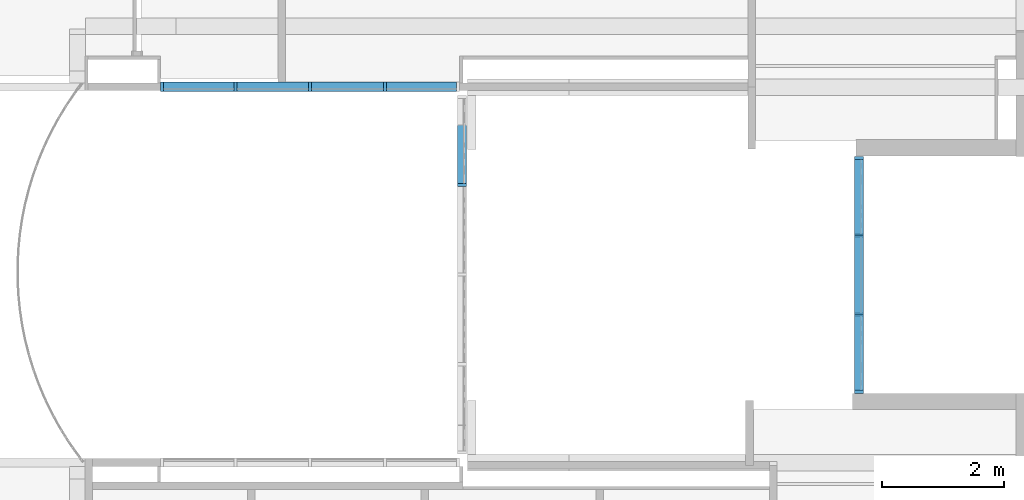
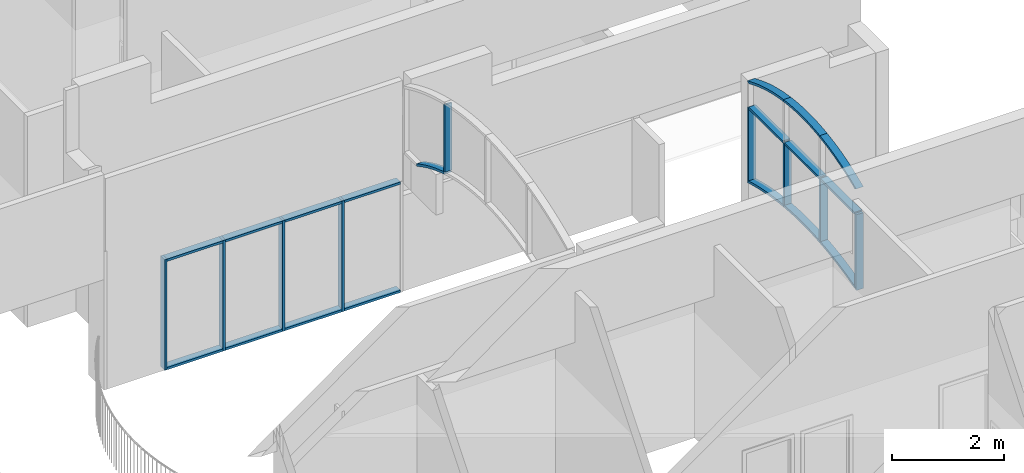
# One storey, part 3 of 47: 27 members, 3 elements without a shape of their own.
"""IFC2X3 building model written with IfcOpenShell, lengths in metres."""

from ifc_helpers import new_model, entity, si_unit, converted_unit, frame, frame_2d, origin, origin_2d_with_axis, place, context, project, spatial, polyline, circle_curve, parameter, trimmed, segment, composite_curve, rectangle, outline, extrude, source, transform, mapped, material, type_object, type_shapes, element, aggregate, save


model = new_model("IFC2X3")

# Units and contexts
model_context = context("Model", 3, precision=1e-09, world=origin())
plan_context = context("Plan", 3, precision=1e-09, world=origin())
ifc_project = project(units=[si_unit("LENGTHUNIT", "METRE"), si_unit("AREAUNIT", "SQUARE_METRE"), si_unit("VOLUMEUNIT", "CUBIC_METRE"), converted_unit("PLANEANGLEUNIT", "DEGREE", entity("IfcRatioMeasure", 0.01745329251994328), si_unit("PLANEANGLEUNIT", "RADIAN"), dimensions=[0, 0, 0, 0, 0, 0, 0]), si_unit("TIMEUNIT", "SECOND")], contexts=[model_context, plan_context])

# Site, building, storey
site_placement = place(None, origin())
site = spatial("IfcSite", under=ifc_project, at=site_placement, Name="Default", CompositionType="ELEMENT")
building_placement = place(site_placement, origin())
building = spatial("IfcBuilding", under=site, at=building_placement, CompositionType="ELEMENT")
storey_placement = place(building_placement, frame((0.0, 0.0, 4.570000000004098)))
storey = spatial("IfcBuildingStorey", under=building, at=storey_placement, Name="Second Floor", CompositionType="ELEMENT", Elevation=4.570000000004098)

# Curtain wall, members
curtain_wall_1_placement = place(storey_placement, origin())
curtain_wall_1 = element("IfcCurtainWall", 1, at=curtain_wall_1_placement, inside=storey, Name="Curtain Wall:Storefront", ObjectType="Curtain Wall:Storefront")
ifc_material = material(Name="Metal - Aluminium")
member_type_1 = type_object("IfcMemberType", Name="50 x 150mm", PredefinedType="MULLION")
shared_shape_1 = source(origin(), model_context, "Body", "SweptSolid", [
    extrude(rectangle(XDim=0.05, YDim=0.15, at=origin_2d_with_axis()), frame((-0.025, 0.0, -2.399999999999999), z_axis=(0.0, 0.0, 1.0), x_axis=(-1.0, 0.0, 0.0)), (0.0, 0.0, 1.0), 2.399999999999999),
])
type_shapes(member_type_1, [shared_shape_1])
member_1_placement = place(storey_placement, frame((-13.8725000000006, 34.77180159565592, 0.0), z_axis=(0.0, 0.0, -1.0), x_axis=(-1.0, 0.0, 0.0)))
member_1 = element("IfcMember", 2, at=member_1_placement, type_object=member_type_1, material=ifc_material, Name="Rectangular Mullion:50 x 150mm:50 x 150mm", ObjectType="50 x 150mm", context=model_context, shape_type="MappedRepresentation", body=[
    mapped(shared_shape_1, transform((0.0, 0.0, 0.0), scale=1.0)),
])
member_type_2 = type_object("IfcMemberType", Name="50 x 150mm", PredefinedType="MULLION")
shared_shape_2 = source(origin(), model_context, "Body", "SweptSolid", [
    extrude(rectangle(XDim=0.05, YDim=0.15, at=origin_2d_with_axis()), frame((0.0, 0.0, -2.399999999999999), z_axis=(0.0, 0.0, 1.0), x_axis=(-1.0, 0.0, 0.0)), (0.0, 0.0, 1.0), 2.399999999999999),
])
type_shapes(member_type_2, [shared_shape_2])
member_2_placement = place(storey_placement, frame((-10.20441995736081, 34.7718015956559, 0.0), z_axis=(0.0, 0.0, -1.0), x_axis=(-1.0, 0.0, 0.0)))
member_2 = element("IfcMember", 3, at=member_2_placement, type_object=member_type_2, material=ifc_material, Name="Rectangular Mullion:50 x 150mm:50 x 150mm", ObjectType="50 x 150mm", context=model_context, shape_type="MappedRepresentation", body=[
    mapped(shared_shape_2, transform((0.0, 0.0, 0.0), scale=1.0)),
])
member_3_placement = place(storey_placement, frame((-11.4271133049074, 34.77180159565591, 0.0), z_axis=(0.0, 0.0, -1.0), x_axis=(-1.0, 0.0, 0.0)))
member_3 = element("IfcMember", 4, at=member_3_placement, type_object=member_type_2, material=ifc_material, Name="Rectangular Mullion:50 x 150mm:50 x 150mm", ObjectType="50 x 150mm", context=model_context, shape_type="MappedRepresentation", body=[
    mapped(shared_shape_2, transform((0.0, 0.0, 0.0), scale=1.0)),
])
member_4_placement = place(storey_placement, frame((-12.649806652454, 34.77180159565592, 0.0), z_axis=(0.0, 0.0, -1.0), x_axis=(-1.0, 0.0, 0.0)))
member_4 = element("IfcMember", 5, at=member_4_placement, type_object=member_type_2, material=ifc_material, Name="Rectangular Mullion:50 x 150mm:50 x 150mm", ObjectType="50 x 150mm", context=model_context, shape_type="MappedRepresentation", body=[
    mapped(shared_shape_2, transform((0.0, 0.0, 0.0), scale=1.0)),
])
member_type_3 = type_object("IfcMemberType", Name="50 x 150mm", PredefinedType="MULLION")
shared_shape_3 = source(origin(), model_context, "Body", "SweptSolid", [
    extrude(rectangle(XDim=0.05, YDim=0.15, at=origin_2d_with_axis()), frame((-0.025, 0.0, -1.147693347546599), z_axis=(0.0, 0.0, 1.0), x_axis=(-1.0, 0.0, 0.0)), (0.0, 0.0, 1.0), 1.147693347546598),
])
type_shapes(member_type_3, [shared_shape_3])
member_5_placement = place(storey_placement, frame((-13.8225000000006, 34.77180159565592, 2.399999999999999), z_axis=(-1.0, 0.0, 0.0), x_axis=(0.0, 0.0, 1.0)))
member_5 = element("IfcMember", 6, at=member_5_placement, type_object=member_type_3, material=ifc_material, Name="Rectangular Mullion:50 x 150mm:50 x 150mm", ObjectType="50 x 150mm", context=model_context, shape_type="MappedRepresentation", body=[
    mapped(shared_shape_3, transform((0.0, 0.0, 0.0), scale=1.0)),
])
member_6_placement = place(storey_placement, frame((-10.17941995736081, 34.7718015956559, 2.399999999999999), z_axis=(-1.0, 0.0, 0.0), x_axis=(0.0, 0.0, 1.0)))
member_6 = element("IfcMember", 7, at=member_6_placement, type_object=member_type_3, material=ifc_material, Name="Rectangular Mullion:50 x 150mm:50 x 150mm", ObjectType="50 x 150mm", context=model_context, shape_type="MappedRepresentation", body=[
    mapped(shared_shape_3, transform((0.0, 0.0, 0.0), scale=1.0)),
])
member_type_4 = type_object("IfcMemberType", Name="50 x 150mm", PredefinedType="MULLION")
shared_shape_4 = source(origin(), model_context, "Body", "SweptSolid", [
    extrude(rectangle(XDim=0.05, YDim=0.15, at=origin_2d_with_axis()), frame((-0.025, 0.0, -1.172693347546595), z_axis=(0.0, 0.0, 1.0), x_axis=(-1.0, 0.0, 0.0)), (0.0, 0.0, 1.0), 1.172693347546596),
])
type_shapes(member_type_4, [shared_shape_4])
member_7_placement = place(storey_placement, frame((-11.4021133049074, 34.77180159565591, 2.399999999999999), z_axis=(-1.0, 0.0, 0.0), x_axis=(0.0, 0.0, 1.0)))
member_7 = element("IfcMember", 8, at=member_7_placement, type_object=member_type_4, material=ifc_material, Name="Rectangular Mullion:50 x 150mm:50 x 150mm", ObjectType="50 x 150mm", context=model_context, shape_type="MappedRepresentation", body=[
    mapped(shared_shape_4, transform((0.0, 0.0, 0.0), scale=1.0)),
])
member_8_placement = place(storey_placement, frame((-12.624806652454, 34.77180159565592, 2.399999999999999), z_axis=(-1.0, 0.0, 0.0), x_axis=(0.0, 0.0, 1.0)))
member_8 = element("IfcMember", 9, at=member_8_placement, type_object=member_type_4, material=ifc_material, Name="Rectangular Mullion:50 x 150mm:50 x 150mm", ObjectType="50 x 150mm", context=model_context, shape_type="MappedRepresentation", body=[
    mapped(shared_shape_4, transform((0.0, 0.0, 0.0), scale=1.0)),
])
member_type_5 = type_object("IfcMemberType", Name="50 x 150mm", PredefinedType="MULLION")
shared_shape_5 = source(origin(), model_context, "Body", "SweptSolid", [
    extrude(rectangle(XDim=0.05, YDim=0.15, at=origin_2d_with_axis()), frame((-0.025, 0.0, -1.147693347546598), z_axis=(0.0, 0.0, 1.0), x_axis=(-1.0, 0.0, 0.0)), (0.0, 0.0, 1.0), 1.147693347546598),
])
type_shapes(member_type_5, [shared_shape_5])
member_9_placement = place(storey_placement, frame((-9.031726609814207, 34.7718015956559, 0.0), z_axis=(1.0, 0.0, 0.0), x_axis=(0.0, 0.0, -1.0)))
member_9 = element("IfcMember", 10, at=member_9_placement, type_object=member_type_5, material=ifc_material, Name="Rectangular Mullion:50 x 150mm:50 x 150mm", ObjectType="50 x 150mm", context=model_context, shape_type="MappedRepresentation", body=[
    mapped(shared_shape_5, transform((0.0, 0.0, 0.0), scale=1.0)),
])
member_10_placement = place(storey_placement, frame((-12.674806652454, 34.77180159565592, 0.0), z_axis=(1.0, 0.0, 0.0), x_axis=(0.0, 0.0, -1.0)))
member_10 = element("IfcMember", 11, at=member_10_placement, type_object=member_type_5, material=ifc_material, Name="Rectangular Mullion:50 x 150mm:50 x 150mm", ObjectType="50 x 150mm", context=model_context, shape_type="MappedRepresentation", body=[
    mapped(shared_shape_5, transform((0.0, 0.0, 0.0), scale=1.0)),
])
member_type_6 = type_object("IfcMemberType", Name="50 x 150mm", PredefinedType="MULLION")
shared_shape_6 = source(origin(), model_context, "Body", "SweptSolid", [
    extrude(rectangle(XDim=0.05, YDim=0.15, at=origin_2d_with_axis()), frame((-0.025, 0.0, -1.172693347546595), z_axis=(0.0, 0.0, 1.0), x_axis=(-1.0, 0.0, 0.0)), (0.0, 0.0, 1.0), 1.172693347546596),
])
type_shapes(member_type_6, [shared_shape_6])
member_11_placement = place(storey_placement, frame((-10.22941995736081, 34.7718015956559, 0.0), z_axis=(1.0, 0.0, 0.0), x_axis=(0.0, 0.0, -1.0)))
member_11 = element("IfcMember", 12, at=member_11_placement, type_object=member_type_6, material=ifc_material, Name="Rectangular Mullion:50 x 150mm:50 x 150mm", ObjectType="50 x 150mm", context=model_context, shape_type="MappedRepresentation", body=[
    mapped(shared_shape_6, transform((0.0, 0.0, 0.0), scale=1.0)),
])
member_12_placement = place(storey_placement, frame((-11.4521133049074, 34.77180159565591, 0.0), z_axis=(1.0, 0.0, 0.0), x_axis=(0.0, 0.0, -1.0)))
member_12 = element("IfcMember", 13, at=member_12_placement, type_object=member_type_6, material=ifc_material, Name="Rectangular Mullion:50 x 150mm:50 x 150mm", ObjectType="50 x 150mm", context=model_context, shape_type="MappedRepresentation", body=[
    mapped(shared_shape_6, transform((0.0, 0.0, 0.0), scale=1.0)),
])
aggregate(curtain_wall_1, [member_5, member_6, member_7, member_8, member_9, member_11, member_12, member_10, member_1, member_2, member_3, member_4])

curtain_wall_2_placement = place(storey_placement, origin())
curtain_wall_2 = element("IfcCurtainWall", 14, at=curtain_wall_2_placement, inside=storey, Name="Curtain Wall:Storefront", ObjectType="Curtain Wall:Storefront")
member_type_7 = type_object("IfcMemberType", Name="50 x 150mm", PredefinedType="MULLION")
shared_shape_7 = source(origin(), model_context, "Body", "SweptSolid", [
    extrude(outline(polyline([(-0.8389368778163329, -0.025), (0.8054973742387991, -0.025), (0.8054973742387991, 0.025), (-0.7720578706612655, 0.025), (-0.8389368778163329, -0.025)])), frame((-0.025, -0.07499999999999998, -0.8389368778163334), z_axis=(0.0, 1.0, 0.0), x_axis=(0.0, 0.0, -1.0)), (0.0, 0.0, 1.0), 0.15),
])
type_shapes(member_type_7, [shared_shape_7])
member_13_placement = place(storey_placement, frame((-2.45449999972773, 29.75999999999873, 0.7555657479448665), z_axis=(0.0, 0.0, -1.0), x_axis=(0.0, -1.0, 0.0)))
member_13 = element("IfcMember", 15, at=member_13_placement, type_object=member_type_7, material=ifc_material, Name="Rectangular Mullion:50 x 150mm:50 x 150mm", ObjectType="50 x 150mm", context=model_context, shape_type="MappedRepresentation", body=[
    mapped(shared_shape_7, transform((0.0, 0.0, 0.0), scale=1.0)),
])
member_type_8 = type_object("IfcMemberType", Name="50 x 150mm", PredefinedType="MULLION")
shared_shape_8 = source(origin(), model_context, "Body", "SweptSolid", [
    extrude(outline(composite_curve([segment(polyline([(-0.4461808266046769, -0.02409578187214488), (0.8967671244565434, -0.02409578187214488)]), True, "CONTINUOUS"), segment(polyline([(0.8967671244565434, -0.02409578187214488), (0.8967671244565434, 0.02590421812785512)]), True, "CONTINUOUS"), segment(polyline([(0.8967671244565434, 0.02590421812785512), (-0.4508827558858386, 0.02590421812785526)]), True, "CONTINUOUS"), segment(trimmed(circle_curve(frame_2d((-7.30741844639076, -0.6440957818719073), x_axis=(0.9591411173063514, 0.2829281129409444)), 6.889193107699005), [parameter(348.9765295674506)], [parameter(349.1460104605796)], True, "PARAMETER"), False, "CONTINUOUS"), segment(polyline([(-0.4489308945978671, 0.005619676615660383), (-0.4475397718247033, -0.009236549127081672)]), True, "CONTINUOUS"), segment(polyline([(-0.4475397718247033, -0.009236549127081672), (-0.4461808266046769, -0.02409578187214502)]), True, "CONTINUOUS")], self_intersect=False)), frame((0.0009042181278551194, -0.07499999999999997, -0.4987080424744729), z_axis=(0.0, 1.0, 0.0), x_axis=(0.0, 0.0, -1.0)), (0.0, 0.0, 1.0), 0.15),
])
type_shapes(member_type_8, [shared_shape_8])
member_14_placement = place(storey_placement, frame((-2.454499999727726, 32.33999999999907, 1.004524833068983), z_axis=(0.0, 0.0, -1.0), x_axis=(0.0, -1.0, 0.0)))
member_14 = element("IfcMember", 16, at=member_14_placement, type_object=member_type_8, material=ifc_material, Name="Rectangular Mullion:50 x 150mm:50 x 150mm", ObjectType="50 x 150mm", context=model_context, shape_type="MappedRepresentation", body=[
    mapped(shared_shape_8, transform((0.0, 0.0, 0.0), scale=1.0)),
])
member_type_9 = type_object("IfcMemberType", Name="50 x 150mm", PredefinedType="MULLION")
shared_shape_9 = source(origin(), model_context, "Body", "SweptSolid", [
    extrude(outline(composite_curve([segment(polyline([(-0.4504894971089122, -0.02173768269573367), (0.8971603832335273, -0.02173768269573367)]), True, "CONTINUOUS"), segment(polyline([(0.8971603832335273, -0.02173768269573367), (0.8971603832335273, 0.02826231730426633)]), True, "CONTINUOUS"), segment(polyline([(0.8971603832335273, 0.02826231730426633), (-0.4457875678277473, 0.02826231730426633)]), True, "CONTINUOUS"), segment(trimmed(circle_curve(frame_2d((-7.307025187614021, 0.6482623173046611), x_axis=(0.9955429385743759, 0.09430937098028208)), 6.889193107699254), [parameter(349.176857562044)], [parameter(349.4250503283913)], True, "PARAMETER"), False, "CONTINUOUS"), segment(polyline([(-0.4485376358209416, -0.001453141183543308), (-0.4495060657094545, -0.01159612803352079)]), True, "CONTINUOUS"), segment(polyline([(-0.4495060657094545, -0.01159612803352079), (-0.4504894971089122, -0.02173768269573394)]), True, "CONTINUOUS")], self_intersect=False)), frame((0.003262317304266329, -0.07499999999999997, -0.4983147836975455), z_axis=(0.0, 1.0, 0.0), x_axis=(0.0, 0.0, -1.0)), (0.0, 0.0, 1.0), 0.15),
])
type_shapes(member_type_9, [shared_shape_9])
member_15_placement = place(storey_placement, frame((-2.454499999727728, 31.04999999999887, 1.004524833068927), z_axis=(0.0, 0.0, -1.0), x_axis=(0.0, -1.0, 0.0)))
member_15 = element("IfcMember", 17, at=member_15_placement, type_object=member_type_9, material=ifc_material, Name="Rectangular Mullion:50 x 150mm:50 x 150mm", ObjectType="50 x 150mm", context=model_context, shape_type="MappedRepresentation", body=[
    mapped(shared_shape_9, transform((0.0, 0.0, 0.0), scale=1.0)),
])
member_type_10 = type_object("IfcMemberType", Name="50 x 150mm", PredefinedType="MULLION")
shared_shape_10 = source(origin(), model_context, "Body", "SweptSolid", [
    extrude(outline(composite_curve([segment(polyline([(-0.1191200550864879, -0.6535333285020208), (-0.06912005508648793, -0.6535333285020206)]), True, "CONTINUOUS"), segment(trimmed(circle_curve(frame_2d((4.53857932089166, -0.6535333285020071), x_axis=(-0.9583864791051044, 0.2854739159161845)), 4.607699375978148), [parameter(0.4004577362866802)], [parameter(16.58717889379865)], True, "PARAMETER"), False, "CONTINUOUS"), segment(polyline([(0.1135368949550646, 0.6309483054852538), (0.07470321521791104, 0.6761183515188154)]), True, "CONTINUOUS"), segment(trimmed(circle_curve(frame_2d((4.53857932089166, -0.6535333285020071), x_axis=(-0.9583864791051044, 0.2854739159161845)), 4.657699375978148), [parameter(3.562221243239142e-13)], [parameter(16.58717889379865)], True, "PARAMETER"), True, "CONTINUOUS")], self_intersect=False)), frame((-0.121419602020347, -0.07499999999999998, -0.6693085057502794), z_axis=(0.0, 1.0, 0.0), x_axis=(-0.9583864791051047, 0.0, 0.2854739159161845)), (0.0, 0.0, 1.0), 0.15),
])
type_shapes(member_type_10, [shared_shape_10])
member_16_placement = place(storey_placement, frame((-2.45449999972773, 29.75999999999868, 2.964012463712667), z_axis=(0.0, -0.9096200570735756, -0.4154411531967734), x_axis=(0.0, -0.4154411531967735, 0.9096200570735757)))
member_16 = element("IfcMember", 18, at=member_16_placement, type_object=member_type_10, material=ifc_material, Name="Rectangular Mullion:50 x 150mm:50 x 150mm", ObjectType="50 x 150mm", context=model_context, shape_type="MappedRepresentation", body=[
    mapped(shared_shape_10, transform((0.0, 0.0, 0.0), scale=1.0)),
])
member_type_11 = type_object("IfcMemberType", Name="50 x 150mm", PredefinedType="MULLION")
shared_shape_11 = source(origin(), model_context, "Body", "SweptSolid", [
    extrude(outline(composite_curve([segment(trimmed(circle_curve(frame_2d((3.454349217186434, 3.015506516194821), x_axis=(-0.65191805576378, -0.758289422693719)), 4.657699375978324), [parameter(343.412821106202)], [parameter(359.9999999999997)], True, "PARAMETER"), True, "CONTINUOUS"), segment(polyline([(0.4179108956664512, -0.516377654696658), (0.4505067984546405, -0.4784631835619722)]), True, "CONTINUOUS"), segment(trimmed(circle_curve(frame_2d((3.454349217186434, 3.015506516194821), x_axis=(-0.65191805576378, -0.758289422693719)), 4.607699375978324), [parameter(343.8132788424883)], [parameter(359.9999999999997)], True, "PARAMETER"), False, "CONTINUOUS"), segment(polyline([(-0.4044246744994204, 0.4974204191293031), (-0.463993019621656, 0.4974204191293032)]), True, "CONTINUOUS")], self_intersect=False)), frame((-0.1191200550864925, -0.07499999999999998, -0.6535333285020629), z_axis=(0.0, -1.0, 0.0), x_axis=(-0.6519180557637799, 0.0, 0.7582894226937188)), (0.0, 0.0, -1.0), 0.1499999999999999),
])
type_shapes(member_type_11, [shared_shape_11])
member_17_placement = place(storey_placement, frame((-2.454499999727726, 32.33999999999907, 3.340098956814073), z_axis=(0.0, -0.9903651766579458, 0.1384803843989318), x_axis=(0.0, 0.1384803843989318, 0.9903651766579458)))
member_17 = element("IfcMember", 19, at=member_17_placement, type_object=member_type_11, material=ifc_material, Name="Rectangular Mullion:50 x 150mm:50 x 150mm", ObjectType="50 x 150mm", context=model_context, shape_type="MappedRepresentation", body=[
    mapped(shared_shape_11, transform((0.0, 0.0, 0.0), scale=1.0)),
])
member_type_12 = type_object("IfcMemberType", Name="50 x 150mm", PredefinedType="MULLION")
shared_shape_12 = source(origin(), model_context, "Body", "SweptSolid", [
    extrude(outline(composite_curve([segment(polyline([(-0.1138404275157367, -0.6353568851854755), (-0.06384042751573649, -0.6353568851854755)]), True, "CONTINUOUS"), segment(trimmed(circle_curve(frame_2d((4.543858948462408, -0.6353568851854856), x_axis=(-0.9616463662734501, 0.2742923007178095)), 4.607699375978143), [parameter(3.562221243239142e-13)], [parameter(15.91984435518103)], True, "PARAMETER"), False, "CONTINUOUS"), segment(polyline([(0.1128815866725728, 0.6284995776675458), (0.06479926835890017, 0.642214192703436)]), True, "CONTINUOUS"), segment(trimmed(circle_curve(frame_2d((4.543858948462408, -0.6353568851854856), x_axis=(-0.9616463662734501, 0.2742923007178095)), 4.657699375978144), [parameter(3.562221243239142e-13)], [parameter(15.91984435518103)], True, "PARAMETER"), True, "CONTINUOUS")], self_intersect=False)), frame((-0.1138404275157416, -0.07499999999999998, -0.6353568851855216), z_axis=(0.0, 1.0, 0.0), x_axis=(-0.9616463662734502, 0.0, 0.2742923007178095)), (0.0, 0.0, 1.0), 0.15),
])
type_shapes(member_type_12, [shared_shape_12])
member_18_placement = place(storey_placement, frame((-2.454499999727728, 31.04999999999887, 3.340098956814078), z_axis=(0.0, -0.9903651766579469, -0.1384803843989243), x_axis=(0.0, -0.1384803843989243, 0.9903651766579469)))
member_18 = element("IfcMember", 20, at=member_18_placement, type_object=member_type_12, material=ifc_material, Name="Rectangular Mullion:50 x 150mm:50 x 150mm", ObjectType="50 x 150mm", context=model_context, shape_type="MappedRepresentation", body=[
    mapped(shared_shape_12, transform((0.0, 0.0, 0.0), scale=1.0)),
])
member_type_13 = type_object("IfcMemberType", Name="50 x 150mm", PredefinedType="MULLION")
shared_shape_13 = source(origin(), model_context, "Body", "SweptSolid", [
    extrude(outline(composite_curve([segment(polyline([(0.03522795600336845, -0.6399335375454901), (0.08522795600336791, -0.6399335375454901)]), True, "CONTINUOUS"), segment(trimmed(circle_curve(frame_2d((-6.803965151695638, -0.6399335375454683), x_axis=(0.9815489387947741, 0.1912110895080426)), 6.889193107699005), [parameter(348.9765295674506)], [parameter(359.4473398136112)], True, "PARAMETER"), True, "CONTINUOUS"), segment(polyline([(-0.02949349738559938, 0.612071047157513), (-0.0909624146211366, 0.6677960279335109)]), True, "CONTINUOUS"), segment(trimmed(circle_curve(frame_2d((-6.803965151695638, -0.6399335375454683), x_axis=(0.9815489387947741, 0.1912110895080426)), 6.839193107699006), [parameter(348.9765295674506)], [parameter(359.9999999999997)], True, "PARAMETER"), False, "CONTINUOUS")], self_intersect=False)), frame((0.03840594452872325, -0.07499999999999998, -0.6728675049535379), z_axis=(0.0, 1.0, 0.0), x_axis=(-0.9815489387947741, 0.0, -0.1912110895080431)), (0.0, 0.0, 1.0), 0.1499999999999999),
])
type_shapes(member_type_13, [shared_shape_13])
member_19_placement = place(storey_placement, frame((-2.454499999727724, 33.62999999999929, 0.7555657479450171), z_axis=(0.0, 0.9591411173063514, -0.2829281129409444), x_axis=(0.0, -0.2829281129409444, -0.9591411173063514)))
member_19 = element("IfcMember", 21, at=member_19_placement, type_object=member_type_13, material=ifc_material, Name="Rectangular Mullion:50 x 150mm:50 x 150mm", ObjectType="50 x 150mm", context=model_context, shape_type="MappedRepresentation", body=[
    mapped(shared_shape_13, transform((0.0, 0.0, 0.0), scale=1.0)),
])
member_type_14 = type_object("IfcMemberType", Name="50 x 150mm", PredefinedType="MULLION")
shared_shape_14 = source(origin(), model_context, "Body", "SweptSolid", [
    extrude(outline(composite_curve([segment(polyline([(0.03605190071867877, -0.6444724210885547), (0.08605190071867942, -0.6444724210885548)]), True, "CONTINUOUS"), segment(trimmed(circle_curve(frame_2d((-6.803141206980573, -0.6444724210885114), x_axis=(0.9822114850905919, 0.187778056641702)), 6.889193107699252), [parameter(349.176857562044)], [parameter(359.9999999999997)], True, "PARAMETER"), True, "CONTINUOUS"), segment(polyline([(-0.03649661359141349, 0.6491668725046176), (-0.08560718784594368, 0.6397779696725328)]), True, "CONTINUOUS"), segment(trimmed(circle_curve(frame_2d((-6.803141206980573, -0.6444724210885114), x_axis=(0.9822114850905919, 0.187778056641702)), 6.839193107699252), [parameter(349.176857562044)], [parameter(359.9999999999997)], True, "PARAMETER"), False, "CONTINUOUS")], self_intersect=False)), frame((0.03605190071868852, -0.07499999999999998, -0.6444724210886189), z_axis=(0.0, 1.0, 0.0), x_axis=(-0.9822114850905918, 0.0, -0.1877780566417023)), (0.0, 0.0, 1.0), 0.15),
])
type_shapes(member_type_14, [shared_shape_14])
member_20_placement = place(storey_placement, frame((-2.454499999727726, 32.33999999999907, 1.004524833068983), z_axis=(0.0, 0.9955429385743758, -0.09430937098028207), x_axis=(0.0, -0.09430937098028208, -0.9955429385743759)))
member_20 = element("IfcMember", 22, at=member_20_placement, type_object=member_type_14, material=ifc_material, Name="Rectangular Mullion:50 x 150mm:50 x 150mm", ObjectType="50 x 150mm", context=model_context, shape_type="MappedRepresentation", body=[
    mapped(shared_shape_14, transform((0.0, 0.0, 0.0), scale=1.0)),
])
member_type_15 = type_object("IfcMemberType", Name="50 x 150mm", PredefinedType="MULLION")
shared_shape_15 = source(origin(), model_context, "Body", "SweptSolid", [
    extrude(outline(composite_curve([segment(polyline([(-0.5159126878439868, -0.4336586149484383), (-0.4329446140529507, -0.4336586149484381)]), True, "CONTINUOUS"), segment(trimmed(circle_curve(frame_2d((-4.611075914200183, 5.043950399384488), x_axis=(0.740874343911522, -0.6716436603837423)), 6.889193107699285), [parameter(349.5291897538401)], [parameter(359.9999999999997)], True, "PARAMETER"), True, "CONTINUOUS"), segment(polyline([(0.4929505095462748, 0.4168675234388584), (0.4559067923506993, 0.4504497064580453)]), True, "CONTINUOUS"), segment(trimmed(circle_curve(frame_2d((-4.611075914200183, 5.043950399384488), x_axis=(0.740874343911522, -0.6716436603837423)), 6.839193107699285), [parameter(348.9765295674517)], [parameter(359.9999999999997)], True, "PARAMETER"), False, "CONTINUOUS")], self_intersect=False)), frame((0.03522795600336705, -0.07499999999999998, -0.6399335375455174), z_axis=(0.0, 1.0, 0.0), x_axis=(-0.7408743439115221, 0.0, 0.6716436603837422)), (0.0, 0.0, 1.0), 0.15),
])
type_shapes(member_type_15, [shared_shape_15])
member_21_placement = place(storey_placement, frame((-2.454499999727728, 31.04999999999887, 1.004524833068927), z_axis=(0.0, 0.9955429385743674, 0.09430937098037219), x_axis=(0.0, 0.09430937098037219, -0.9955429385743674)))
member_21 = element("IfcMember", 23, at=member_21_placement, type_object=member_type_15, material=ifc_material, Name="Rectangular Mullion:50 x 150mm:50 x 150mm", ObjectType="50 x 150mm", context=model_context, shape_type="MappedRepresentation", body=[
    mapped(shared_shape_15, transform((0.0, 0.0, 0.0), scale=1.0)),
])
member_type_16 = type_object("IfcMemberType", Name="50 x 150mm", PredefinedType="MULLION")
shared_shape_16 = source(origin(), model_context, "Body", "SweptSolid", [
    extrude(outline(polyline([(-0.8054973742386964, -0.025), (0.838936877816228, -0.025), (0.7720578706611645, 0.025), (-0.8054973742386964, 0.025), (-0.8054973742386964, -0.025)])), frame((-0.025, -0.07499999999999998, -0.8054973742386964), z_axis=(0.0, 1.0, 0.0), x_axis=(0.0, 0.0, -1.0)), (0.0, 0.0, 1.0), 0.15),
])
type_shapes(member_type_16, [shared_shape_16])
member_22_placement = place(storey_placement, frame((-2.454499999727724, 33.62999999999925, 2.399999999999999), z_axis=(0.0, 0.0, 1.0), x_axis=(0.0, 1.0, 0.0)))
member_22 = element("IfcMember", 24, at=member_22_placement, type_object=member_type_16, material=ifc_material, Name="Rectangular Mullion:50 x 150mm:50 x 150mm", ObjectType="50 x 150mm", context=model_context, shape_type="MappedRepresentation", body=[
    mapped(shared_shape_16, transform((0.0, 0.0, 0.0), scale=1.0)),
])
member_type_17 = type_object("IfcMemberType", Name="50 x 150mm", PredefinedType="MULLION")
shared_shape_17 = source(origin(), model_context, "Body", "SweptSolid", [
    extrude(rectangle(XDim=0.05, YDim=0.15, at=origin_2d_with_axis()), frame((0.0, 0.0, -1.215000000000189), z_axis=(0.0, 0.0, 1.0), x_axis=(-1.0, 0.0, 0.0)), (0.0, 0.0, 1.0), 1.215000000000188),
])
type_shapes(member_type_17, [shared_shape_17])
member_23_placement = place(storey_placement, frame((-2.454499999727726, 32.36499999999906, 2.399999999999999), z_axis=(0.0, -1.0, 0.0), x_axis=(0.0, 0.0, 1.0)))
member_23 = element("IfcMember", 25, at=member_23_placement, type_object=member_type_17, material=ifc_material, Name="Rectangular Mullion:50 x 150mm:50 x 150mm", ObjectType="50 x 150mm", context=model_context, shape_type="MappedRepresentation", body=[
    mapped(shared_shape_17, transform((0.0, 0.0, 0.0), scale=1.0)),
])
member_24_placement = place(storey_placement, frame((-2.45449999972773, 29.8099999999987, 2.399999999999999), z_axis=(0.0, -1.0, 0.0), x_axis=(0.0, 0.0, 1.0)))
member_24 = element("IfcMember", 26, at=member_24_placement, type_object=member_type_17, material=ifc_material, Name="Rectangular Mullion:50 x 150mm:50 x 150mm", ObjectType="50 x 150mm", context=model_context, shape_type="MappedRepresentation", body=[
    mapped(shared_shape_17, transform((0.0, 0.0, 0.0), scale=1.0)),
])
member_type_18 = type_object("IfcMemberType", Name="50 x 150mm", PredefinedType="MULLION")
shared_shape_18 = source(origin(), model_context, "Body", "SweptSolid", [
    extrude(rectangle(XDim=0.05, YDim=0.15, at=origin_2d_with_axis()), frame((0.0, 0.0, -1.240000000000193), z_axis=(0.0, 0.0, 1.0), x_axis=(-1.0, 0.0, 0.0)), (0.0, 0.0, 1.0), 1.240000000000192),
])
type_shapes(member_type_18, [shared_shape_18])
member_25_placement = place(storey_placement, frame((-2.454499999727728, 31.07499999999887, 2.399999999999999), z_axis=(0.0, -1.0, 0.0), x_axis=(0.0, 0.0, 1.0)))
member_25 = element("IfcMember", 27, at=member_25_placement, type_object=member_type_18, material=ifc_material, Name="Rectangular Mullion:50 x 150mm:50 x 150mm", ObjectType="50 x 150mm", context=model_context, shape_type="MappedRepresentation", body=[
    mapped(shared_shape_18, transform((0.0, 0.0, 0.0), scale=1.0)),
])
aggregate(curtain_wall_2, [member_13, member_14, member_15, member_16, member_17, member_18, member_19, member_20, member_21, member_22, member_23, member_25, member_24])

curtain_wall_3_placement = place(storey_placement, origin())
curtain_wall_3 = element("IfcCurtainWall", 28, at=curtain_wall_3_placement, inside=storey, Name="Curtain Wall:Storefront", ObjectType="Curtain Wall:Storefront")
member_type_19 = type_object("IfcMemberType", Name="50 x 150mm", PredefinedType="MULLION")
shared_shape_19 = source(origin(), model_context, "Body", "SweptSolid", [
    extrude(outline(composite_curve([segment(polyline([(-0.722206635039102, -0.0256518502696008), (0.7362284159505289, -0.0256518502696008)]), True, "CONTINUOUS"), segment(trimmed(circle_curve(frame_2d((-5.523026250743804, -1.475602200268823), x_axis=(0.9999988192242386, 0.001536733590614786)), 6.424999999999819), [parameter(12.95441987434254)], [parameter(13.07903804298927)], True, "PARAMETER"), True, "CONTINUOUS"), segment(polyline([(0.7330599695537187, -0.01204140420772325), (0.728774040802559, 0.006159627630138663)]), True, "CONTINUOUS"), segment(polyline([(0.728774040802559, 0.006159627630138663), (0.7244351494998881, 0.0243481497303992)]), True, "CONTINUOUS"), segment(polyline([(0.7244351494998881, 0.0243481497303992), (-0.737592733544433, 0.02434814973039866)]), True, "CONTINUOUS"), segment(trimmed(circle_curve(frame_2d((-5.523026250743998, -1.475602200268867), x_axis=(0.8700961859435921, 0.4928819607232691)), 5.014999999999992), [parameter(347.7514974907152)], [parameter(347.8729410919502)], True, "PARAMETER"), False, "CONTINUOUS"), segment(polyline([(-0.7344241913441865, 0.0142015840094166), (-0.7282740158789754, -0.005712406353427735)]), True, "CONTINUOUS"), segment(polyline([(-0.7282740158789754, -0.005712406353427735), (-0.722206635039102, -0.02565185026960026)]), True, "CONTINUOUS")], self_intersect=False)), frame((-0.0006518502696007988, -0.07500000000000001, -0.7821669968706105), z_axis=(0.0, 1.0, 0.0), x_axis=(0.0, 0.0, -1.0)), (0.0, 0.0, 1.0), 0.15),
])
type_shapes(member_type_19, [shared_shape_19])
member_26_placement = place(storey_placement, frame((-8.94599995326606, 33.16499999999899, 3.490831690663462), z_axis=(0.0, 0.0, -1.0), x_axis=(0.0, -1.0, 0.0)))
member_26 = element("IfcMember", 29, at=member_26_placement, type_object=member_type_19, material=ifc_material, Name="Rectangular Mullion:50 x 150mm:50 x 150mm", ObjectType="50 x 150mm", context=model_context, shape_type="MappedRepresentation", body=[
    mapped(shared_shape_19, transform((0.0, 0.0, 0.0), scale=1.0)),
])
member_type_20 = type_object("IfcMemberType", Name="50 x 150mm", PredefinedType="MULLION")
shared_shape_20 = source(origin(), model_context, "Body", "SweptSolid", [
    extrude(outline(composite_curve([segment(polyline([(0.03110008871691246, -0.5261002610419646), (0.08110008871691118, -0.5261002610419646)]), True, "CONTINUOUS"), segment(trimmed(circle_curve(frame_2d((-4.93389991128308, -0.5261002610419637), x_axis=(0.9772366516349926, 0.2121521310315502)), 5.014999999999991), [parameter(347.7514974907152)], [parameter(359.8494950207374)], True, "PARAMETER"), True, "CONTINUOUS"), segment(polyline([(-0.03028024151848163, 0.5249654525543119), (-0.08191993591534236, 0.5272350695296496)]), True, "CONTINUOUS"), segment(trimmed(circle_curve(frame_2d((-4.93389991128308, -0.5261002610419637), x_axis=(0.9772366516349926, 0.2121521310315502)), 4.964999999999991), [parameter(347.7514974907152)], [parameter(359.9999999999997)], True, "PARAMETER"), False, "CONTINUOUS")], self_intersect=False)), frame((0.03179887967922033, -0.07499999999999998, -0.5326129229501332), z_axis=(0.0, 1.0, 0.0), x_axis=(-0.9772366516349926, 0.0, -0.2121521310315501)), (0.0, 0.0, 1.0), 0.15),
])
type_shapes(member_type_20, [shared_shape_20])
member_27_placement = place(storey_placement, frame((-8.945999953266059, 34.13720858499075, 3.070000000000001), z_axis=(0.0, 0.870096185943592, -0.4928819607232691), x_axis=(0.0, -0.4928819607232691, -0.8700961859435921)))
member_27 = element("IfcMember", 30, at=member_27_placement, type_object=member_type_20, material=ifc_material, Name="Rectangular Mullion:50 x 150mm:50 x 150mm", ObjectType="50 x 150mm", context=model_context, shape_type="MappedRepresentation", body=[
    mapped(shared_shape_20, transform((0.0, 0.0, 0.0), scale=1.0)),
])
aggregate(curtain_wall_3, [member_26, member_27])

save(model, "model.ifc")
